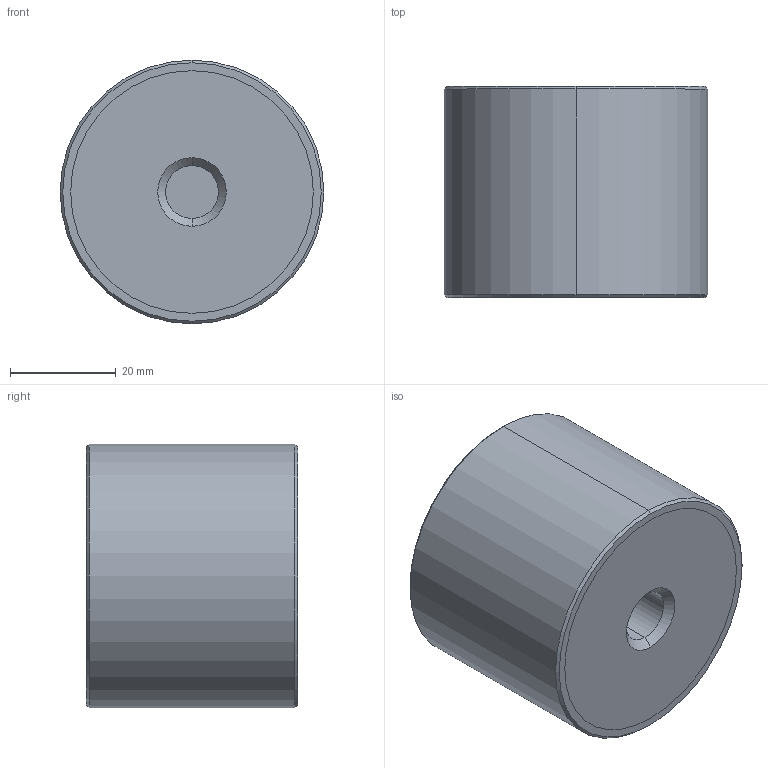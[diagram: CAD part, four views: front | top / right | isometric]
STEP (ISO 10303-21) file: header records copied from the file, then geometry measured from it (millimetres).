
FILE_DESCRIPTION (( 'STEP AP203' ), '1' );
FILE_NAME ('61080.W0502.step', '2018-07-16T20:45:10', ( '' ), ( '' ), 'SwSTEP 2.0', 'SolidWorks 2017', '' );
FILE_SCHEMA (( 'CONFIG_CONTROL_DESIGN' ));
Length unit declared in the file: millimetre
Products named in the file (4): Part1_61080.W0502; 61080.W0502; Part3_61080.W0502; Part2_61080.W0502
Assembly tree (3 placements, depth 2):
  61080.W0502
    Part1_61080.W0502
    Part2_61080.W0502
    Part3_61080.W0502
Bounding box: 50 x 40 x 50 mm (x, y, z)
Volume: 76852.3 mm3; surface area: 17897 mm2
Topology: 3 solids, 3 shells, 32 faces, 62 edges, 40 vertices
Faces by surface type: cylinder 14, plane 10, cone 8
Entity records: 1256 total; most frequent: DIRECTION 178, CARTESIAN_POINT 140, ORIENTED_EDGE 124, AXIS2_PLACEMENT_3D 78, EDGE_CURVE 62, CIRCLE 40, VERTEX_POINT 40, EDGE_LOOP 40
